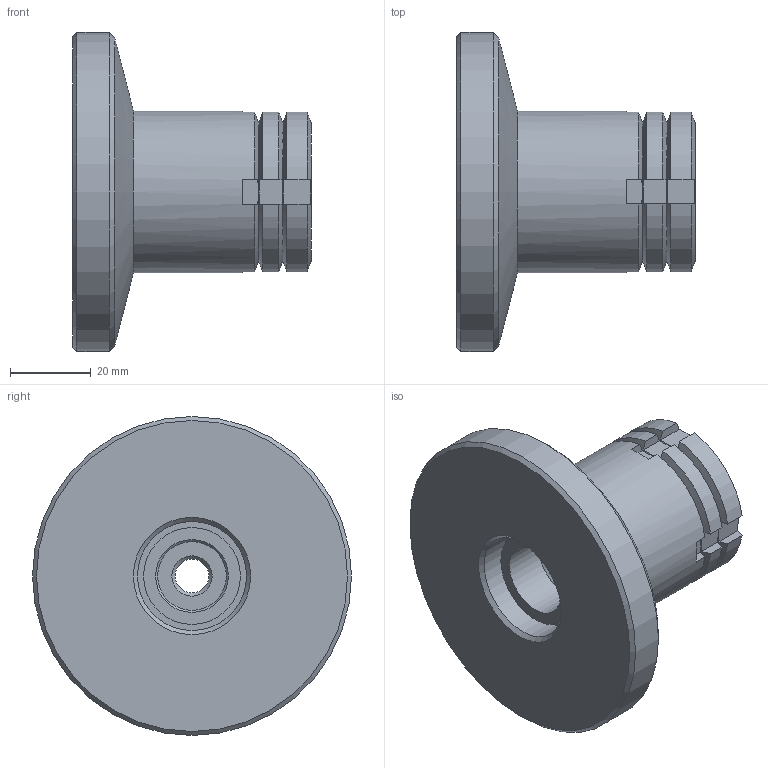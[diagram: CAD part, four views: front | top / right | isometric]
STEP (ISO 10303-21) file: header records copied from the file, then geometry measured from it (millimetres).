
FILE_DESCRIPTION( ( 'STEP AP203' ), '1' );
FILE_NAME( 'C:/Temp/Ganter_Step_05_03_2020/data/3_2/gn360/gn360_ni/Stainless Steel-Levelling set GN 360-79-M10-69-B-NI (0-0).stp', '2020-03-13T05:42:07', ( 'License CC BY-ND 4.0' ), ( 'CADENAS' ), ' ', 'PARTsolutions', ' ' );
FILE_SCHEMA( ( 'CONFIG_CONTROL_DESIGN' ) );
Length unit declared in the file: millimetre
Products named in the file (5): Stainless Steel-Levelling set GN 360-79-M10-69-B-NI (0-0); _Stainless Steel-Levelling set GN 360-79-M10-69-B-NI (0-0)-1; _Stainless Steel-Levelling set GN 360-79-M10-69-B-NI (0-0)-2; _Edelstahl-Ausgleich-Stellfuss GN 360-79-M10-69-B-NI (0-0)-4; _Stainless Steel-Levelling set GN 360-79-M10-69-B-NI (0-0)-3
Assembly tree (4 placements, depth 2):
  Stainless Steel-Levelling set GN 360-79-M10-69-B-NI (0-0)
    _Stainless Steel-Levelling set GN 360-79-M10-69-B-NI (0-0)-1
    _Stainless Steel-Levelling set GN 360-79-M10-69-B-NI (0-0)-2
    _Edelstahl-Ausgleich-Stellfuss GN 360-79-M10-69-B-NI (0-0)-4
    _Stainless Steel-Levelling set GN 360-79-M10-69-B-NI (0-0)-3
Bounding box: 59 x 79 x 79 mm (x, y, z)
Volume: 103199.7 mm3; surface area: 32597 mm2
Topology: 4 solids, 4 shells, 96 faces, 232 edges, 149 vertices
Faces by surface type: plane 53, cylinder 22, cone 18, sphere 2, torus 1
Full cylindrical faces by diameter (mm): 8.376 x1, 17 x1, 18 x1, 20 x1, 23.5 x1, 24 x1, 26 x1, 26.376 x2, 27 x1, 28 x1, 28.5 x1, 40 x1, 79 x1
Entity records: 2884 total; most frequent: CARTESIAN_POINT 711, DIRECTION 400, ORIENTED_EDGE 378, EDGE_CURVE 189, AXIS2_PLACEMENT_3D 170, EDGE_LOOP 144, VERTEX_POINT 141, FACE_OUTER_BOUND 113
